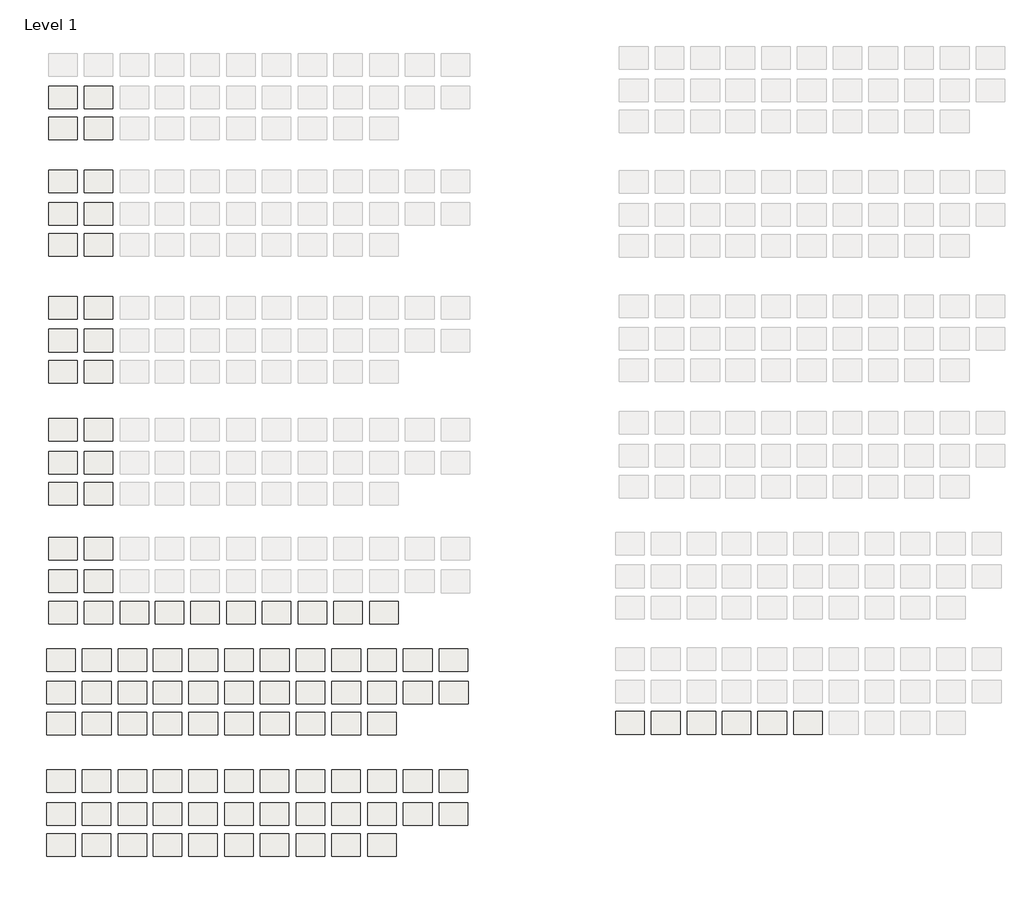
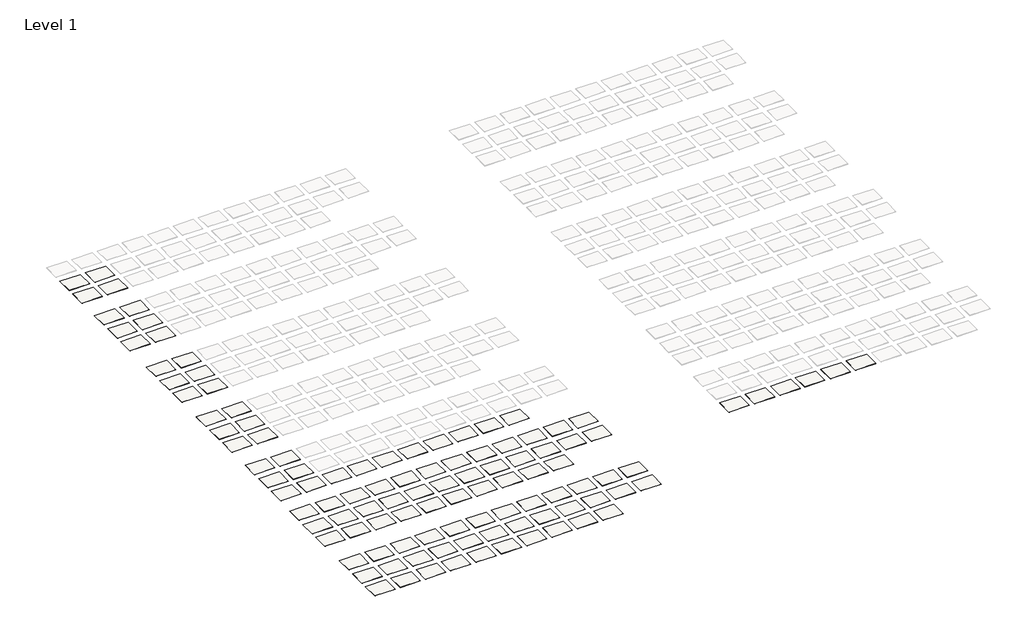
# One storey, part 1 of 4: 110 coverings.
"""IFC4 building model written with IfcOpenShell, lengths in millimetres."""

from ifc_helpers import new_model, si_unit, frame, origin, place, context, project, spatial, polyline, outline, extrude, element, save

model = new_model("IFC4")

# Units and contexts
model_context = context("Model", 3, world=origin())
ifc_project = project(units=[si_unit("LENGTHUNIT", "METRE", prefix="MILLI")], contexts=[model_context])

# Site, building, storey
site = spatial("IfcSite", under=ifc_project)
building = spatial("IfcBuilding", under=site)
storey = spatial("IfcBuildingStorey", under=building, Name="Level 1", Elevation=0.0)

# Coverings
placement = place(None, origin())
element("IfcCovering", 1, ObjectType="Rockfon Color-all A24 1800 x 600 mm Anthracite", at=placement, inside=storey, context=model_context, shape_type="SweptSolid", body=[
    extrude(outline(polyline([(-5278.7545528, -87280.8676046), (-5278.7545528, -90180.8676046), (-8968.7545528, -90180.8676046), (-8968.7545528, -87280.8676046), (-5278.7545528, -87280.8676046)])), frame((0.0, 0.0, 1.0), z_axis=(0.0, 0.0, 1.0), x_axis=(1.0, 0.0, 0.0)), (0.0, 0.0, 1.0), 20.0),
])
element("IfcCovering", 2, ObjectType="Rockfon Color-all A24 1800 x 600 mm Seaweed", at=placement, inside=storey, context=model_context, shape_type="SweptSolid", body=[
    extrude(outline(polyline([(-5278.7545528, -91480.8676046), (-5278.7545528, -94380.8676046), (-8968.7545528, -94380.8676046), (-8968.7545528, -91480.8676046), (-5278.7545528, -91480.8676046)])), frame((0.0, 0.0, 1.0), z_axis=(0.0, 0.0, 1.0), x_axis=(1.0, 0.0, 0.0)), (0.0, 0.0, 1.0), 20.0),
])
element("IfcCovering", 3, ObjectType="Rockfon Color-all A24 1800 x 600 mm Azure", at=placement, inside=storey, context=model_context, shape_type="SweptSolid", body=[
    extrude(outline(polyline([(-5278.7545528, -95480.8676046), (-5278.7545528, -98380.8676046), (-8968.7545528, -98380.8676046), (-8968.7545528, -95480.8676046), (-5278.7545528, -95480.8676046)])), frame((0.0, 0.0, 1.0), z_axis=(0.0, 0.0, 1.0), x_axis=(1.0, 0.0, 0.0)), (0.0, 0.0, 1.0), 20.0),
])
element("IfcCovering", 4, ObjectType="Rockfon Color-all A24 1800 x 600 mm Mustard", at=placement, inside=storey, context=model_context, shape_type="SweptSolid", body=[
    extrude(outline(polyline([(-678.7545528, -87280.8676046), (-678.7545528, -90180.8676046), (-4368.7545528, -90180.8676046), (-4368.7545528, -87280.8676046), (-678.7545528, -87280.8676046)])), frame((0.0, 0.0, 1.0), z_axis=(0.0, 0.0, 1.0), x_axis=(1.0, 0.0, 0.0)), (0.0, 0.0, 1.0), 20.0),
])
element("IfcCovering", 5, ObjectType="Rockfon Color-all A24 1800 x 600 mm Eucalyptus", at=placement, inside=storey, context=model_context, shape_type="SweptSolid", body=[
    extrude(outline(polyline([(-678.7545528, -91480.8676046), (-678.7545528, -94380.8676046), (-4368.7545528, -94380.8676046), (-4368.7545528, -91480.8676046), (-678.7545528, -91480.8676046)])), frame((0.0, 0.0, 1.0), z_axis=(0.0, 0.0, 1.0), x_axis=(1.0, 0.0, 0.0)), (0.0, 0.0, 1.0), 20.0),
])
element("IfcCovering", 6, ObjectType="Rockfon Color-all A24 1800 x 600 mm Plaster", at=placement, inside=storey, context=model_context, shape_type="SweptSolid", body=[
    extrude(outline(polyline([(-678.7545528, -95480.8676046), (-678.7545528, -98380.8676046), (-4368.7545528, -98380.8676046), (-4368.7545528, -95480.8676046), (-678.7545528, -95480.8676046)])), frame((0.0, 0.0, 1.0), z_axis=(0.0, 0.0, 1.0), x_axis=(1.0, 0.0, 0.0)), (0.0, 0.0, 1.0), 20.0),
])
element("IfcCovering", 7, ObjectType="Rockfon Color-all A24 1800 x 600 mm Sand", at=placement, inside=storey, context=model_context, shape_type="SweptSolid", body=[
    extrude(outline(polyline([(3921.2454472, -87280.8676046), (3921.2454472, -90180.8676046), (231.2454472, -90180.8676046), (231.2454472, -87280.8676046), (3921.2454472, -87280.8676046)])), frame((0.0, 0.0, 1.0), z_axis=(0.0, 0.0, 1.0), x_axis=(1.0, 0.0, 0.0)), (0.0, 0.0, 1.0), 20.0),
])
element("IfcCovering", 8, ObjectType="Rockfon Color-all A24 1800 x 600 mm Fresh", at=placement, inside=storey, context=model_context, shape_type="SweptSolid", body=[
    extrude(outline(polyline([(3921.2454472, -91480.8676046), (3921.2454472, -94380.8676046), (231.2454472, -94380.8676046), (231.2454472, -91480.8676046), (3921.2454472, -91480.8676046)])), frame((0.0, 0.0, 1.0), z_axis=(0.0, 0.0, 1.0), x_axis=(1.0, 0.0, 0.0)), (0.0, 0.0, 1.0), 20.0),
])
element("IfcCovering", 9, ObjectType="Rockfon Color-all A24 1800 x 600 mm Scarlet", at=placement, inside=storey, context=model_context, shape_type="SweptSolid", body=[
    extrude(outline(polyline([(3921.2454472, -95480.8676046), (3921.2454472, -98380.8676046), (231.2454472, -98380.8676046), (231.2454472, -95480.8676046), (3921.2454472, -95480.8676046)])), frame((0.0, 0.0, 1.0), z_axis=(0.0, 0.0, 1.0), x_axis=(1.0, 0.0, 0.0)), (0.0, 0.0, 1.0), 20.0),
])
element("IfcCovering", 10, ObjectType="Rockfon Color-all A24 1800 x 600 mm Chalk", at=placement, inside=storey, context=model_context, shape_type="SweptSolid", body=[
    extrude(outline(polyline([(8421.2454472, -87280.8676046), (8421.2454472, -90180.8676046), (4731.2454472, -90180.8676046), (4731.2454472, -87280.8676046), (8421.2454472, -87280.8676046)])), frame((0.0, 0.0, 1.0), z_axis=(0.0, 0.0, 1.0), x_axis=(1.0, 0.0, 0.0)), (0.0, 0.0, 1.0), 20.0),
])
element("IfcCovering", 11, ObjectType="Rockfon Color-all A24 1800 x 600 mm Sage", at=placement, inside=storey, context=model_context, shape_type="SweptSolid", body=[
    extrude(outline(polyline([(8421.2454472, -91480.8676046), (8421.2454472, -94380.8676046), (4731.2454472, -94380.8676046), (4731.2454472, -91480.8676046), (8421.2454472, -91480.8676046)])), frame((0.0, 0.0, 1.0), z_axis=(0.0, 0.0, 1.0), x_axis=(1.0, 0.0, 0.0)), (0.0, 0.0, 1.0), 20.0),
])
element("IfcCovering", 12, ObjectType="Rockfon Color-all A24 1800 x 600 mm Stone", at=placement, inside=storey, context=model_context, shape_type="SweptSolid", body=[
    extrude(outline(polyline([(8421.2454472, -95480.8676046), (8421.2454472, -98380.8676046), (4731.2454472, -98380.8676046), (4731.2454472, -95480.8676046), (8421.2454472, -95480.8676046)])), frame((0.0, 0.0, 1.0), z_axis=(0.0, 0.0, 1.0), x_axis=(1.0, 0.0, 0.0)), (0.0, 0.0, 1.0), 20.0),
])
element("IfcCovering", 13, ObjectType="Rockfon Color-all A24 1800 x 600 mm Charcoal", at=placement, inside=storey, context=model_context, shape_type="SweptSolid", body=[
    extrude(outline(polyline([(13021.2454472, -87280.8676046), (13021.2454472, -90180.8676046), (9331.2454472, -90180.8676046), (9331.2454472, -87280.8676046), (13021.2454472, -87280.8676046)])), frame((0.0, 0.0, 1.0), z_axis=(0.0, 0.0, 1.0), x_axis=(1.0, 0.0, 0.0)), (0.0, 0.0, 1.0), 20.0),
])
element("IfcCovering", 14, ObjectType="Rockfon Color-all A24 1800 x 600 mm Mint", at=placement, inside=storey, context=model_context, shape_type="SweptSolid", body=[
    extrude(outline(polyline([(13021.2454472, -91480.8676046), (13021.2454472, -94380.8676046), (9331.2454472, -94380.8676046), (9331.2454472, -91480.8676046), (13021.2454472, -91480.8676046)])), frame((0.0, 0.0, 1.0), z_axis=(0.0, 0.0, 1.0), x_axis=(1.0, 0.0, 0.0)), (0.0, 0.0, 1.0), 20.0),
])
element("IfcCovering", 15, ObjectType="Rockfon Color-all A24 1800 x 600 mm Stucco", at=placement, inside=storey, context=model_context, shape_type="SweptSolid", body=[
    extrude(outline(polyline([(13021.2454472, -95480.8676046), (13021.2454472, -98380.8676046), (9331.2454472, -98380.8676046), (9331.2454472, -95480.8676046), (13021.2454472, -95480.8676046)])), frame((0.0, 0.0, 1.0), z_axis=(0.0, 0.0, 1.0), x_axis=(1.0, 0.0, 0.0)), (0.0, 0.0, 1.0), 20.0),
])
element("IfcCovering", 16, ObjectType="Rockfon Color-all A24 1800 x 600 mm Coral", at=placement, inside=storey, context=model_context, shape_type="SweptSolid", body=[
    extrude(outline(polyline([(17621.2454472, -87280.8676046), (17621.2454472, -90180.8676046), (13931.2454472, -90180.8676046), (13931.2454472, -87280.8676046), (17621.2454472, -87280.8676046)])), frame((0.0, 0.0, 1.0), z_axis=(0.0, 0.0, 1.0), x_axis=(1.0, 0.0, 0.0)), (0.0, 0.0, 1.0), 20.0),
])
element("IfcCovering", 17, ObjectType="Rockfon Color-all A24 1800 x 600 mm Gravel", at=placement, inside=storey, context=model_context, shape_type="SweptSolid", body=[
    extrude(outline(polyline([(17621.2454472, -91480.8676046), (17621.2454472, -94380.8676046), (13931.2454472, -94380.8676046), (13931.2454472, -91480.8676046), (17621.2454472, -91480.8676046)])), frame((0.0, 0.0, 1.0), z_axis=(0.0, 0.0, 1.0), x_axis=(1.0, 0.0, 0.0)), (0.0, 0.0, 1.0), 20.0),
])
element("IfcCovering", 18, ObjectType="Rockfon Color-all A24 1800 x 600 mm Sandalwood", at=placement, inside=storey, context=model_context, shape_type="SweptSolid", body=[
    extrude(outline(polyline([(17621.2454472, -95480.8676046), (17621.2454472, -98380.8676046), (13931.2454472, -98380.8676046), (13931.2454472, -95480.8676046), (17621.2454472, -95480.8676046)])), frame((0.0, 0.0, 1.0), z_axis=(0.0, 0.0, 1.0), x_axis=(1.0, 0.0, 0.0)), (0.0, 0.0, 1.0), 20.0),
])
element("IfcCovering", 19, ObjectType="Rockfon Color-all A24 1800 x 600 mm Clay", at=placement, inside=storey, context=model_context, shape_type="SweptSolid", body=[
    extrude(outline(polyline([(22221.2454472, -87280.8676046), (22221.2454472, -90180.8676046), (18531.2454472, -90180.8676046), (18531.2454472, -87280.8676046), (22221.2454472, -87280.8676046)])), frame((0.0, 0.0, 1.0), z_axis=(0.0, 0.0, 1.0), x_axis=(1.0, 0.0, 0.0)), (0.0, 0.0, 1.0), 20.0),
])
element("IfcCovering", 20, ObjectType="Rockfon Color-all A24 1800 x 600 mm Hemp", at=placement, inside=storey, context=model_context, shape_type="SweptSolid", body=[
    extrude(outline(polyline([(22221.2454472, -91480.8676046), (22221.2454472, -94380.8676046), (18531.2454472, -94380.8676046), (18531.2454472, -91480.8676046), (22221.2454472, -91480.8676046)])), frame((0.0, 0.0, 1.0), z_axis=(0.0, 0.0, 1.0), x_axis=(1.0, 0.0, 0.0)), (0.0, 0.0, 1.0), 20.0),
])
element("IfcCovering", 21, ObjectType="Rockfon Color-all A24 1800 x 600 mm Ebony", at=placement, inside=storey, context=model_context, shape_type="SweptSolid", body=[
    extrude(outline(polyline([(22221.2454472, -95480.8676046), (22221.2454472, -98380.8676046), (18531.2454472, -98380.8676046), (18531.2454472, -95480.8676046), (22221.2454472, -95480.8676046)])), frame((0.0, 0.0, 1.0), z_axis=(0.0, 0.0, 1.0), x_axis=(1.0, 0.0, 0.0)), (0.0, 0.0, 1.0), 20.0),
])
element("IfcCovering", 22, ObjectType="Rockfon Color-all A24 1800 x 600 mm Concrete", at=placement, inside=storey, context=model_context, shape_type="SweptSolid", body=[
    extrude(outline(polyline([(26821.2454472, -87280.8676046), (26821.2454472, -90180.8676046), (23131.2454472, -90180.8676046), (23131.2454472, -87280.8676046), (26821.2454472, -87280.8676046)])), frame((0.0, 0.0, 1.0), z_axis=(0.0, 0.0, 1.0), x_axis=(1.0, 0.0, 0.0)), (0.0, 0.0, 1.0), 20.0),
])
element("IfcCovering", 23, ObjectType="Rockfon Color-all A24 1800 x 600 mm Space", at=placement, inside=storey, context=model_context, shape_type="SweptSolid", body=[
    extrude(outline(polyline([(26821.2454472, -91480.8676046), (26821.2454472, -94380.8676046), (23131.2454472, -94380.8676046), (23131.2454472, -91480.8676046), (26821.2454472, -91480.8676046)])), frame((0.0, 0.0, 1.0), z_axis=(0.0, 0.0, 1.0), x_axis=(1.0, 0.0, 0.0)), (0.0, 0.0, 1.0), 20.0),
])
element("IfcCovering", 24, ObjectType="Rockfon Color-all A24 1800 x 600 mm Iron", at=placement, inside=storey, context=model_context, shape_type="SweptSolid", body=[
    extrude(outline(polyline([(26821.2454472, -95480.8676046), (26821.2454472, -98380.8676046), (23131.2454472, -98380.8676046), (23131.2454472, -95480.8676046), (26821.2454472, -95480.8676046)])), frame((0.0, 0.0, 1.0), z_axis=(0.0, 0.0, 1.0), x_axis=(1.0, 0.0, 0.0)), (0.0, 0.0, 1.0), 20.0),
])
element("IfcCovering", 25, ObjectType="Rockfon Color-all A24 1800 x 600 mm Seashell", at=placement, inside=storey, context=model_context, shape_type="SweptSolid", body=[
    extrude(outline(polyline([(31421.2454472, -87280.8676046), (31421.2454472, -90180.8676046), (27731.2454472, -90180.8676046), (27731.2454472, -87280.8676046), (31421.2454472, -87280.8676046)])), frame((0.0, 0.0, 1.0), z_axis=(0.0, 0.0, 1.0), x_axis=(1.0, 0.0, 0.0)), (0.0, 0.0, 1.0), 20.0),
])
element("IfcCovering", 26, ObjectType="Rockfon Color-all A24 1800 x 600 mm Storm", at=placement, inside=storey, context=model_context, shape_type="SweptSolid", body=[
    extrude(outline(polyline([(31421.2454472, -91480.8676046), (31421.2454472, -94380.8676046), (27731.2454472, -94380.8676046), (27731.2454472, -91480.8676046), (31421.2454472, -91480.8676046)])), frame((0.0, 0.0, 1.0), z_axis=(0.0, 0.0, 1.0), x_axis=(1.0, 0.0, 0.0)), (0.0, 0.0, 1.0), 20.0),
])
element("IfcCovering", 27, ObjectType="Rockfon Color-all A24 1800 x 600 mm Moon", at=placement, inside=storey, context=model_context, shape_type="SweptSolid", body=[
    extrude(outline(polyline([(31421.2454472, -95480.8676046), (31421.2454472, -98380.8676046), (27731.2454472, -98380.8676046), (27731.2454472, -95480.8676046), (31421.2454472, -95480.8676046)])), frame((0.0, 0.0, 1.0), z_axis=(0.0, 0.0, 1.0), x_axis=(1.0, 0.0, 0.0)), (0.0, 0.0, 1.0), 20.0),
])
element("IfcCovering", 28, ObjectType="Rockfon Color-all A24 1800 x 600 mm Cork", at=placement, inside=storey, context=model_context, shape_type="SweptSolid", body=[
    extrude(outline(polyline([(36021.2454472, -87280.8676046), (36021.2454472, -90180.8676046), (32331.2454472, -90180.8676046), (32331.2454472, -87280.8676046), (36021.2454472, -87280.8676046)])), frame((0.0, 0.0, 1.0), z_axis=(0.0, 0.0, 1.0), x_axis=(1.0, 0.0, 0.0)), (0.0, 0.0, 1.0), 20.0),
])
element("IfcCovering", 29, ObjectType="Rockfon Color-all A24 1800 x 600 mm Linen", at=placement, inside=storey, context=model_context, shape_type="SweptSolid", body=[
    extrude(outline(polyline([(36021.2454472, -91480.8676046), (36021.2454472, -94380.8676046), (32331.2454472, -94380.8676046), (32331.2454472, -91480.8676046), (36021.2454472, -91480.8676046)])), frame((0.0, 0.0, 1.0), z_axis=(0.0, 0.0, 1.0), x_axis=(1.0, 0.0, 0.0)), (0.0, 0.0, 1.0), 20.0),
])
element("IfcCovering", 30, ObjectType="Rockfon Color-all A24 1800 x 600 mm Zinc", at=placement, inside=storey, context=model_context, shape_type="SweptSolid", body=[
    extrude(outline(polyline([(36021.2454472, -95480.8676046), (36021.2454472, -98380.8676046), (32331.2454472, -98380.8676046), (32331.2454472, -95480.8676046), (36021.2454472, -95480.8676046)])), frame((0.0, 0.0, 1.0), z_axis=(0.0, 0.0, 1.0), x_axis=(1.0, 0.0, 0.0)), (0.0, 0.0, 1.0), 20.0),
])
element("IfcCovering", 31, ObjectType="Rockfon Color-all A24 1800 x 600 mm Petal", at=placement, inside=storey, context=model_context, shape_type="SweptSolid", body=[
    extrude(outline(polyline([(40621.2454472, -87280.8676046), (40621.2454472, -90180.8676046), (36931.2454472, -90180.8676046), (36931.2454472, -87280.8676046), (40621.2454472, -87280.8676046)])), frame((0.0, 0.0, 1.0), z_axis=(0.0, 0.0, 1.0), x_axis=(1.0, 0.0, 0.0)), (0.0, 0.0, 1.0), 20.0),
])
element("IfcCovering", 32, ObjectType="Rockfon Color-all A24 1800 x 600 mm Mastic", at=placement, inside=storey, context=model_context, shape_type="SweptSolid", body=[
    extrude(outline(polyline([(40621.2454472, -91480.8676046), (40621.2454472, -94380.8676046), (36931.2454472, -94380.8676046), (36931.2454472, -91480.8676046), (40621.2454472, -91480.8676046)])), frame((0.0, 0.0, 1.0), z_axis=(0.0, 0.0, 1.0), x_axis=(1.0, 0.0, 0.0)), (0.0, 0.0, 1.0), 20.0),
])
element("IfcCovering", 33, ObjectType="Rockfon Color-all A24 1800 x 600 mm Mercury", at=placement, inside=storey, context=model_context, shape_type="SweptSolid", body=[
    extrude(outline(polyline([(45240.3167047, -91485.9951657), (45240.3167047, -94385.9951657), (41550.3167047, -94385.9951657), (41550.3167047, -91485.9951657), (45240.3167047, -91485.9951657)])), frame((0.0, 0.0, 1.0), z_axis=(0.0, 0.0, 1.0), x_axis=(1.0, 0.0, 0.0)), (0.0, 0.0, 1.0), 20.0),
])
element("IfcCovering", 34, ObjectType="Rockfon Color-all A24 1800 x 600 mm Earth", at=placement, inside=storey, context=model_context, shape_type="SweptSolid", body=[
    extrude(outline(polyline([(45221.2454472, -87280.8676046), (45221.2454472, -90180.8676046), (41531.2454472, -90180.8676046), (41531.2454472, -87280.8676046), (45221.2454472, -87280.8676046)])), frame((0.0, 0.0, 1.0), z_axis=(0.0, 0.0, 1.0), x_axis=(1.0, 0.0, 0.0)), (0.0, 0.0, 1.0), 20.0),
])
element("IfcCovering", 35, ObjectType="Rockfon Color-all X 600 x 600 mm Seaweed", at=placement, inside=storey, context=model_context, shape_type="SweptSolid", body=[
    extrude(outline(polyline([(-5022.2855434, 748.2467138), (-5022.2855434, -2151.7532862), (-8712.2855434, -2151.7532862), (-8712.2855434, 748.2467138), (-5022.2855434, 748.2467138)])), frame((0.0, 0.0, 1.0), z_axis=(0.0, 0.0, 1.0), x_axis=(1.0, 0.0, 0.0)), (0.0, 0.0, 1.0), 22.0),
])
element("IfcCovering", 36, ObjectType="Rockfon Color-all X 600 x 600 mm Azure", at=placement, inside=storey, context=model_context, shape_type="SweptSolid", body=[
    extrude(outline(polyline([(-5022.2855434, -3251.7532862), (-5022.2855434, -6151.7532862), (-8712.2855434, -6151.7532862), (-8712.2855434, -3251.7532862), (-5022.2855434, -3251.7532862)])), frame((0.0, 0.0, 1.0), z_axis=(0.0, 0.0, 1.0), x_axis=(1.0, 0.0, 0.0)), (0.0, 0.0, 1.0), 22.0),
])
element("IfcCovering", 37, ObjectType="Rockfon Color-all X 600 x 600 mm Eucalyptus", at=placement, inside=storey, context=model_context, shape_type="SweptSolid", body=[
    extrude(outline(polyline([(-422.2855434, 748.2467138), (-422.2855434, -2151.7532862), (-4112.2855434, -2151.7532862), (-4112.2855434, 748.2467138), (-422.2855434, 748.2467138)])), frame((0.0, 0.0, 1.0), z_axis=(0.0, 0.0, 1.0), x_axis=(1.0, 0.0, 0.0)), (0.0, 0.0, 1.0), 22.0),
])
element("IfcCovering", 38, ObjectType="Rockfon Color-all X 600 x 600 mm Plaster", at=placement, inside=storey, context=model_context, shape_type="SweptSolid", body=[
    extrude(outline(polyline([(-422.2855434, -3251.7532862), (-422.2855434, -6151.7532862), (-4112.2855434, -6151.7532862), (-4112.2855434, -3251.7532862), (-422.2855434, -3251.7532862)])), frame((0.0, 0.0, 1.0), z_axis=(0.0, 0.0, 1.0), x_axis=(1.0, 0.0, 0.0)), (0.0, 0.0, 1.0), 22.0),
])
element("IfcCovering", 39, ObjectType="Rockfon Color-all A15 600 x 600 mm Anthracite", at=placement, inside=storey, context=model_context, shape_type="SweptSolid", body=[
    extrude(outline(polyline([(-5022.2855434, -10051.7532862), (-5022.2855434, -12951.7532862), (-8712.2855434, -12951.7532862), (-8712.2855434, -10051.7532862), (-5022.2855434, -10051.7532862)])), frame((0.0, 0.0, 1.0), z_axis=(0.0, 0.0, 1.0), x_axis=(1.0, 0.0, 0.0)), (0.0, 0.0, 1.0), 15.0),
])
element("IfcCovering", 40, ObjectType="Rockfon Color-all A15 600 x 600 mm Seaweed", at=placement, inside=storey, context=model_context, shape_type="SweptSolid", body=[
    extrude(outline(polyline([(-5022.2855434, -14251.7532862), (-5022.2855434, -17151.7532862), (-8712.2855434, -17151.7532862), (-8712.2855434, -14251.7532862), (-5022.2855434, -14251.7532862)])), frame((0.0, 0.0, 1.0), z_axis=(0.0, 0.0, 1.0), x_axis=(1.0, 0.0, 0.0)), (0.0, 0.0, 1.0), 15.0),
])
element("IfcCovering", 41, ObjectType="Rockfon Color-all A15 600 x 600 mm Misty", at=placement, inside=storey, context=model_context, shape_type="SweptSolid", body=[
    extrude(outline(polyline([(-5022.2855434, -18251.7532862), (-5022.2855434, -21151.7532862), (-8712.2855434, -21151.7532862), (-8712.2855434, -18251.7532862), (-5022.2855434, -18251.7532862)])), frame((0.0, 0.0, 1.0), z_axis=(0.0, 0.0, 1.0), x_axis=(1.0, 0.0, 0.0)), (0.0, 0.0, 1.0), 15.0),
])
element("IfcCovering", 42, ObjectType="Rockfon Color-all A15 600 x 600 mm Mustard", at=placement, inside=storey, context=model_context, shape_type="SweptSolid", body=[
    extrude(outline(polyline([(-422.2855434, -10051.7532862), (-422.2855434, -12951.7532862), (-4112.2855434, -12951.7532862), (-4112.2855434, -10051.7532862), (-422.2855434, -10051.7532862)])), frame((0.0, 0.0, 1.0), z_axis=(0.0, 0.0, 1.0), x_axis=(1.0, 0.0, 0.0)), (0.0, 0.0, 1.0), 15.0),
])
element("IfcCovering", 43, ObjectType="Rockfon Color-all A15 600 x 600 mm Eucalyptus", at=placement, inside=storey, context=model_context, shape_type="SweptSolid", body=[
    extrude(outline(polyline([(-422.2855434, -14251.7532862), (-422.2855434, -17151.7532862), (-4112.2855434, -17151.7532862), (-4112.2855434, -14251.7532862), (-422.2855434, -14251.7532862)])), frame((0.0, 0.0, 1.0), z_axis=(0.0, 0.0, 1.0), x_axis=(1.0, 0.0, 0.0)), (0.0, 0.0, 1.0), 15.0),
])
element("IfcCovering", 44, ObjectType="Rockfon Color-all A15 600 x 600 mm Plaster", at=placement, inside=storey, context=model_context, shape_type="SweptSolid", body=[
    extrude(outline(polyline([(-422.2855434, -18251.7532862), (-422.2855434, -21151.7532862), (-4112.2855434, -21151.7532862), (-4112.2855434, -18251.7532862), (-422.2855434, -18251.7532862)])), frame((0.0, 0.0, 1.0), z_axis=(0.0, 0.0, 1.0), x_axis=(1.0, 0.0, 0.0)), (0.0, 0.0, 1.0), 15.0),
])
element("IfcCovering", 45, ObjectType="Rockfon Color-all A24 600 x 600 mm Anthracite", at=placement, inside=storey, context=model_context, shape_type="SweptSolid", body=[
    extrude(outline(polyline([(-5022.2855434, -42051.7532862), (-5022.2855434, -44951.7532862), (-8712.2855434, -44951.7532862), (-8712.2855434, -42051.7532862), (-5022.2855434, -42051.7532862)])), frame((0.0, 0.0, 1.0), z_axis=(0.0, 0.0, 1.0), x_axis=(1.0, 0.0, 0.0)), (0.0, 0.0, 1.0), 15.0),
])
element("IfcCovering", 46, ObjectType="Rockfon Color-all A24 600 x 600 mm Seaweed", at=placement, inside=storey, context=model_context, shape_type="SweptSolid", body=[
    extrude(outline(polyline([(-5022.2855434, -46251.7532862), (-5022.2855434, -49151.7532862), (-8712.2855434, -49151.7532862), (-8712.2855434, -46251.7532862), (-5022.2855434, -46251.7532862)])), frame((0.0, 0.0, 1.0), z_axis=(0.0, 0.0, 1.0), x_axis=(1.0, 0.0, 0.0)), (0.0, 0.0, 1.0), 15.0),
])
element("IfcCovering", 47, ObjectType="Rockfon Color-all A24 600 x 600 mm Azure", at=placement, inside=storey, context=model_context, shape_type="SweptSolid", body=[
    extrude(outline(polyline([(-5022.2855434, -50251.7532862), (-5022.2855434, -53151.7532862), (-8712.2855434, -53151.7532862), (-8712.2855434, -50251.7532862), (-5022.2855434, -50251.7532862)])), frame((0.0, 0.0, 1.0), z_axis=(0.0, 0.0, 1.0), x_axis=(1.0, 0.0, 0.0)), (0.0, 0.0, 1.0), 15.0),
])
element("IfcCovering", 48, ObjectType="Rockfon Color-all A24 600 x 600 mm Mustard", at=placement, inside=storey, context=model_context, shape_type="SweptSolid", body=[
    extrude(outline(polyline([(-422.2855434, -42051.7532862), (-422.2855434, -44951.7532862), (-4112.2855434, -44951.7532862), (-4112.2855434, -42051.7532862), (-422.2855434, -42051.7532862)])), frame((0.0, 0.0, 1.0), z_axis=(0.0, 0.0, 1.0), x_axis=(1.0, 0.0, 0.0)), (0.0, 0.0, 1.0), 15.0),
])
element("IfcCovering", 49, ObjectType="Rockfon Color-all A24 600 x 600 mm Eucalyptus", at=placement, inside=storey, context=model_context, shape_type="SweptSolid", body=[
    extrude(outline(polyline([(-422.2855434, -46251.7532862), (-422.2855434, -49151.7532862), (-4112.2855434, -49151.7532862), (-4112.2855434, -46251.7532862), (-422.2855434, -46251.7532862)])), frame((0.0, 0.0, 1.0), z_axis=(0.0, 0.0, 1.0), x_axis=(1.0, 0.0, 0.0)), (0.0, 0.0, 1.0), 15.0),
])
element("IfcCovering", 50, ObjectType="Rockfon Color-all A24 600 x 600 mm Plaster", at=placement, inside=storey, context=model_context, shape_type="SweptSolid", body=[
    extrude(outline(polyline([(-422.2855434, -50251.7532862), (-422.2855434, -53151.7532862), (-4112.2855434, -53151.7532862), (-4112.2855434, -50251.7532862), (-422.2855434, -50251.7532862)])), frame((0.0, 0.0, 1.0), z_axis=(0.0, 0.0, 1.0), x_axis=(1.0, 0.0, 0.0)), (0.0, 0.0, 1.0), 15.0),
])
element("IfcCovering", 51, ObjectType="Rockfon Color-all A15 1200 x 600 mm Anthracite", at=placement, inside=storey, context=model_context, shape_type="SweptSolid", body=[
    extrude(outline(polyline([(-5022.2855434, -26351.7532862), (-5022.2855434, -29251.7532862), (-8712.2855434, -29251.7532862), (-8712.2855434, -26351.7532862), (-5022.2855434, -26351.7532862)])), frame((0.0, 0.0, 1.0), z_axis=(0.0, 0.0, 1.0), x_axis=(1.0, 0.0, 0.0)), (0.0, 0.0, 1.0), 15.0),
])
element("IfcCovering", 52, ObjectType="Rockfon Color-all A15 1200 x 600 mm Seaweed", at=placement, inside=storey, context=model_context, shape_type="SweptSolid", body=[
    extrude(outline(polyline([(-5022.2855434, -30551.7532862), (-5022.2855434, -33451.7532862), (-8712.2855434, -33451.7532862), (-8712.2855434, -30551.7532862), (-5022.2855434, -30551.7532862)])), frame((0.0, 0.0, 1.0), z_axis=(0.0, 0.0, 1.0), x_axis=(1.0, 0.0, 0.0)), (0.0, 0.0, 1.0), 15.0),
])
element("IfcCovering", 53, ObjectType="Rockfon Color-all A15 1200 x 600 mm Azure", at=placement, inside=storey, context=model_context, shape_type="SweptSolid", body=[
    extrude(outline(polyline([(-5022.2855434, -34551.7532862), (-5022.2855434, -37451.7532862), (-8712.2855434, -37451.7532862), (-8712.2855434, -34551.7532862), (-5022.2855434, -34551.7532862)])), frame((0.0, 0.0, 1.0), z_axis=(0.0, 0.0, 1.0), x_axis=(1.0, 0.0, 0.0)), (0.0, 0.0, 1.0), 15.0),
])
element("IfcCovering", 54, ObjectType="Rockfon Color-all A15 1200 x 600 mm Mustard", at=placement, inside=storey, context=model_context, shape_type="SweptSolid", body=[
    extrude(outline(polyline([(-422.2855434, -26351.7532862), (-422.2855434, -29251.7532862), (-4112.2855434, -29251.7532862), (-4112.2855434, -26351.7532862), (-422.2855434, -26351.7532862)])), frame((0.0, 0.0, 1.0), z_axis=(0.0, 0.0, 1.0), x_axis=(1.0, 0.0, 0.0)), (0.0, 0.0, 1.0), 15.0),
])
element("IfcCovering", 55, ObjectType="Rockfon Color-all A15 1200 x 600 mm Eucalyptus", at=placement, inside=storey, context=model_context, shape_type="SweptSolid", body=[
    extrude(outline(polyline([(-422.2855434, -30551.7532862), (-422.2855434, -33451.7532862), (-4112.2855434, -33451.7532862), (-4112.2855434, -30551.7532862), (-422.2855434, -30551.7532862)])), frame((0.0, 0.0, 1.0), z_axis=(0.0, 0.0, 1.0), x_axis=(1.0, 0.0, 0.0)), (0.0, 0.0, 1.0), 15.0),
])
element("IfcCovering", 56, ObjectType="Rockfon Color-all A15 1200 x 600 mm Plaster", at=placement, inside=storey, context=model_context, shape_type="SweptSolid", body=[
    extrude(outline(polyline([(-422.2855434, -34551.7532862), (-422.2855434, -37451.7532862), (-4112.2855434, -37451.7532862), (-4112.2855434, -34551.7532862), (-422.2855434, -34551.7532862)])), frame((0.0, 0.0, 1.0), z_axis=(0.0, 0.0, 1.0), x_axis=(1.0, 0.0, 0.0)), (0.0, 0.0, 1.0), 15.0),
])
element("IfcCovering", 57, ObjectType="Rockfon Color-all A24 1200 x 600 mm Anthracite", at=placement, inside=storey, context=model_context, shape_type="SweptSolid", body=[
    extrude(outline(polyline([(-5022.2855434, -57351.7532862), (-5022.2855434, -60251.7532862), (-8712.2855434, -60251.7532862), (-8712.2855434, -57351.7532862), (-5022.2855434, -57351.7532862)])), frame((0.0, 0.0, 1.0), z_axis=(0.0, 0.0, 1.0), x_axis=(1.0, 0.0, 0.0)), (0.0, 0.0, 1.0), 15.0),
])
element("IfcCovering", 58, ObjectType="Rockfon Color-all A24 1200 x 600 mm Seaweed", at=placement, inside=storey, context=model_context, shape_type="SweptSolid", body=[
    extrude(outline(polyline([(-5022.2855434, -61551.7532862), (-5022.2855434, -64451.7532862), (-8712.2855434, -64451.7532862), (-8712.2855434, -61551.7532862), (-5022.2855434, -61551.7532862)])), frame((0.0, 0.0, 1.0), z_axis=(0.0, 0.0, 1.0), x_axis=(1.0, 0.0, 0.0)), (0.0, 0.0, 1.0), 15.0),
])
element("IfcCovering", 59, ObjectType="Rockfon Color-all A24 1200 x 600 mm Azure", at=placement, inside=storey, context=model_context, shape_type="SweptSolid", body=[
    extrude(outline(polyline([(-5022.2855434, -65551.7532862), (-5022.2855434, -68451.7532862), (-8712.2855434, -68451.7532862), (-8712.2855434, -65551.7532862), (-5022.2855434, -65551.7532862)])), frame((0.0, 0.0, 1.0), z_axis=(0.0, 0.0, 1.0), x_axis=(1.0, 0.0, 0.0)), (0.0, 0.0, 1.0), 15.0),
])
element("IfcCovering", 60, ObjectType="Rockfon Color-all A24 1200 x 600 mm Mustard", at=placement, inside=storey, context=model_context, shape_type="SweptSolid", body=[
    extrude(outline(polyline([(-422.2855434, -57351.7532862), (-422.2855434, -60251.7532862), (-4112.2855434, -60251.7532862), (-4112.2855434, -57351.7532862), (-422.2855434, -57351.7532862)])), frame((0.0, 0.0, 1.0), z_axis=(0.0, 0.0, 1.0), x_axis=(1.0, 0.0, 0.0)), (0.0, 0.0, 1.0), 15.0),
])
element("IfcCovering", 61, ObjectType="Rockfon Color-all A24 1200 x 600 mm Eucalyptus", at=placement, inside=storey, context=model_context, shape_type="SweptSolid", body=[
    extrude(outline(polyline([(-422.2855434, -61551.7532862), (-422.2855434, -64451.7532862), (-4112.2855434, -64451.7532862), (-4112.2855434, -61551.7532862), (-422.2855434, -61551.7532862)])), frame((0.0, 0.0, 1.0), z_axis=(0.0, 0.0, 1.0), x_axis=(1.0, 0.0, 0.0)), (0.0, 0.0, 1.0), 15.0),
])
element("IfcCovering", 62, ObjectType="Rockfon Color-all A24 1200 x 600 mm Plaster", at=placement, inside=storey, context=model_context, shape_type="SweptSolid", body=[
    extrude(outline(polyline([(-422.2855434, -65551.7532862), (-422.2855434, -68451.7532862), (-4112.2855434, -68451.7532862), (-4112.2855434, -65551.7532862), (-422.2855434, -65551.7532862)])), frame((0.0, 0.0, 1.0), z_axis=(0.0, 0.0, 1.0), x_axis=(1.0, 0.0, 0.0)), (0.0, 0.0, 1.0), 15.0),
])
element("IfcCovering", 63, ObjectType="Rockfon Color-all A24 1200 x 600 mm Scarlet", at=placement, inside=storey, context=model_context, shape_type="SweptSolid", body=[
    extrude(outline(polyline([(4177.7144566, -65551.7532862), (4177.7144566, -68451.7532862), (487.7144566, -68451.7532862), (487.7144566, -65551.7532862), (4177.7144566, -65551.7532862)])), frame((0.0, 0.0, 1.0), z_axis=(0.0, 0.0, 1.0), x_axis=(1.0, 0.0, 0.0)), (0.0, 0.0, 1.0), 15.0),
])
element("IfcCovering", 64, ObjectType="Rockfon Color-all A24 1200 x 600 mm Stone", at=placement, inside=storey, context=model_context, shape_type="SweptSolid", body=[
    extrude(outline(polyline([(8677.7144566, -65551.7532862), (8677.7144566, -68451.7532862), (4987.7144566, -68451.7532862), (4987.7144566, -65551.7532862), (8677.7144566, -65551.7532862)])), frame((0.0, 0.0, 1.0), z_axis=(0.0, 0.0, 1.0), x_axis=(1.0, 0.0, 0.0)), (0.0, 0.0, 1.0), 15.0),
])
element("IfcCovering", 65, ObjectType="Rockfon Color-all A24 1200 x 600 mm Stucco", at=placement, inside=storey, context=model_context, shape_type="SweptSolid", body=[
    extrude(outline(polyline([(13277.7144566, -65551.7532862), (13277.7144566, -68451.7532862), (9587.7144566, -68451.7532862), (9587.7144566, -65551.7532862), (13277.7144566, -65551.7532862)])), frame((0.0, 0.0, 1.0), z_axis=(0.0, 0.0, 1.0), x_axis=(1.0, 0.0, 0.0)), (0.0, 0.0, 1.0), 15.0),
])
element("IfcCovering", 66, ObjectType="Rockfon Color-all A24 1200 x 600 mm Sandalwood", at=placement, inside=storey, context=model_context, shape_type="SweptSolid", body=[
    extrude(outline(polyline([(17877.7144566, -65551.7532862), (17877.7144566, -68451.7532862), (14187.7144566, -68451.7532862), (14187.7144566, -65551.7532862), (17877.7144566, -65551.7532862)])), frame((0.0, 0.0, 1.0), z_axis=(0.0, 0.0, 1.0), x_axis=(1.0, 0.0, 0.0)), (0.0, 0.0, 1.0), 15.0),
])
element("IfcCovering", 67, ObjectType="Rockfon Color-all A24 1200 x 600 mm Ebony", at=placement, inside=storey, context=model_context, shape_type="SweptSolid", body=[
    extrude(outline(polyline([(22477.7144566, -65551.7532862), (22477.7144566, -68451.7532862), (18787.7144566, -68451.7532862), (18787.7144566, -65551.7532862), (22477.7144566, -65551.7532862)])), frame((0.0, 0.0, 1.0), z_axis=(0.0, 0.0, 1.0), x_axis=(1.0, 0.0, 0.0)), (0.0, 0.0, 1.0), 15.0),
])
element("IfcCovering", 68, ObjectType="Rockfon Color-all A24 1200 x 600 mm Iron", at=placement, inside=storey, context=model_context, shape_type="SweptSolid", body=[
    extrude(outline(polyline([(27077.7144566, -65551.7532862), (27077.7144566, -68451.7532862), (23387.7144566, -68451.7532862), (23387.7144566, -65551.7532862), (27077.7144566, -65551.7532862)])), frame((0.0, 0.0, 1.0), z_axis=(0.0, 0.0, 1.0), x_axis=(1.0, 0.0, 0.0)), (0.0, 0.0, 1.0), 15.0),
])
element("IfcCovering", 69, ObjectType="Rockfon Color-all A24 1200 x 600 mm Moon", at=placement, inside=storey, context=model_context, shape_type="SweptSolid", body=[
    extrude(outline(polyline([(31677.7144566, -65551.7532862), (31677.7144566, -68451.7532862), (27987.7144566, -68451.7532862), (27987.7144566, -65551.7532862), (31677.7144566, -65551.7532862)])), frame((0.0, 0.0, 1.0), z_axis=(0.0, 0.0, 1.0), x_axis=(1.0, 0.0, 0.0)), (0.0, 0.0, 1.0), 15.0),
])
element("IfcCovering", 70, ObjectType="Rockfon Color-all A24 1200 x 600 mm Zinc", at=placement, inside=storey, context=model_context, shape_type="SweptSolid", body=[
    extrude(outline(polyline([(36277.7144566, -65551.7532862), (36277.7144566, -68451.7532862), (32587.7144566, -68451.7532862), (32587.7144566, -65551.7532862), (36277.7144566, -65551.7532862)])), frame((0.0, 0.0, 1.0), z_axis=(0.0, 0.0, 1.0), x_axis=(1.0, 0.0, 0.0)), (0.0, 0.0, 1.0), 15.0),
])
element("IfcCovering", 71, ObjectType="Rockfon Color-all A24 1500 x 600 mm Anthracite", at=placement, inside=storey, context=model_context, shape_type="SweptSolid", body=[
    extrude(outline(polyline([(-5260.9924898, -71674.7554002), (-5260.9924898, -74574.7554002), (-8950.9924898, -74574.7554002), (-8950.9924898, -71674.7554002), (-5260.9924898, -71674.7554002)])), frame((0.0, 0.0, 1.0), z_axis=(0.0, 0.0, 1.0), x_axis=(1.0, 0.0, 0.0)), (0.0, 0.0, 1.0), 20.0),
])
element("IfcCovering", 72, ObjectType="Rockfon Color-all A24 1500 x 600 mm Seaweed", at=placement, inside=storey, context=model_context, shape_type="SweptSolid", body=[
    extrude(outline(polyline([(-5260.9924898, -75874.7554002), (-5260.9924898, -78774.7554002), (-8950.9924898, -78774.7554002), (-8950.9924898, -75874.7554002), (-5260.9924898, -75874.7554002)])), frame((0.0, 0.0, 1.0), z_axis=(0.0, 0.0, 1.0), x_axis=(1.0, 0.0, 0.0)), (0.0, 0.0, 1.0), 20.0),
])
element("IfcCovering", 73, ObjectType="Rockfon Color-all A24 1500 x 600 mm Azure", at=placement, inside=storey, context=model_context, shape_type="SweptSolid", body=[
    extrude(outline(polyline([(-5260.9924898, -79874.7554002), (-5260.9924898, -82774.7554002), (-8950.9924898, -82774.7554002), (-8950.9924898, -79874.7554002), (-5260.9924898, -79874.7554002)])), frame((0.0, 0.0, 1.0), z_axis=(0.0, 0.0, 1.0), x_axis=(1.0, 0.0, 0.0)), (0.0, 0.0, 1.0), 20.0),
])
element("IfcCovering", 74, ObjectType="Rockfon Color-all A24 1500 x 600 mm Mustard", at=placement, inside=storey, context=model_context, shape_type="SweptSolid", body=[
    extrude(outline(polyline([(-660.9924898, -71674.7554002), (-660.9924898, -74574.7554002), (-4350.9924898, -74574.7554002), (-4350.9924898, -71674.7554002), (-660.9924898, -71674.7554002)])), frame((0.0, 0.0, 1.0), z_axis=(0.0, 0.0, 1.0), x_axis=(1.0, 0.0, 0.0)), (0.0, 0.0, 1.0), 20.0),
])
element("IfcCovering", 75, ObjectType="Rockfon Color-all A24 1500 x 600 mm Eucalyptus", at=placement, inside=storey, context=model_context, shape_type="SweptSolid", body=[
    extrude(outline(polyline([(-660.9924898, -75874.7554002), (-660.9924898, -78774.7554002), (-4350.9924898, -78774.7554002), (-4350.9924898, -75874.7554002), (-660.9924898, -75874.7554002)])), frame((0.0, 0.0, 1.0), z_axis=(0.0, 0.0, 1.0), x_axis=(1.0, 0.0, 0.0)), (0.0, 0.0, 1.0), 20.0),
])
element("IfcCovering", 76, ObjectType="Rockfon Color-all A24 1500 x 600 mm Plaster", at=placement, inside=storey, context=model_context, shape_type="SweptSolid", body=[
    extrude(outline(polyline([(-660.9924898, -79874.7554002), (-660.9924898, -82774.7554002), (-4350.9924898, -82774.7554002), (-4350.9924898, -79874.7554002), (-660.9924898, -79874.7554002)])), frame((0.0, 0.0, 1.0), z_axis=(0.0, 0.0, 1.0), x_axis=(1.0, 0.0, 0.0)), (0.0, 0.0, 1.0), 20.0),
])
element("IfcCovering", 77, ObjectType="Rockfon Color-all A24 1500 x 600 mm Sand", at=placement, inside=storey, context=model_context, shape_type="SweptSolid", body=[
    extrude(outline(polyline([(3939.0075102, -71674.7554002), (3939.0075102, -74574.7554002), (249.0075102, -74574.7554002), (249.0075102, -71674.7554002), (3939.0075102, -71674.7554002)])), frame((0.0, 0.0, 1.0), z_axis=(0.0, 0.0, 1.0), x_axis=(1.0, 0.0, 0.0)), (0.0, 0.0, 1.0), 20.0),
])
element("IfcCovering", 78, ObjectType="Rockfon Color-all A24 1500 x 600 mm Fresh", at=placement, inside=storey, context=model_context, shape_type="SweptSolid", body=[
    extrude(outline(polyline([(3939.0075102, -75874.7554002), (3939.0075102, -78774.7554002), (249.0075102, -78774.7554002), (249.0075102, -75874.7554002), (3939.0075102, -75874.7554002)])), frame((0.0, 0.0, 1.0), z_axis=(0.0, 0.0, 1.0), x_axis=(1.0, 0.0, 0.0)), (0.0, 0.0, 1.0), 20.0),
])
element("IfcCovering", 79, ObjectType="Rockfon Color-all A24 1500 x 600 mm Scarlet", at=placement, inside=storey, context=model_context, shape_type="SweptSolid", body=[
    extrude(outline(polyline([(3939.0075102, -79874.7554002), (3939.0075102, -82774.7554002), (249.0075102, -82774.7554002), (249.0075102, -79874.7554002), (3939.0075102, -79874.7554002)])), frame((0.0, 0.0, 1.0), z_axis=(0.0, 0.0, 1.0), x_axis=(1.0, 0.0, 0.0)), (0.0, 0.0, 1.0), 20.0),
])
element("IfcCovering", 80, ObjectType="Rockfon Color-all A24 1500 x 600 mm Chalk", at=placement, inside=storey, context=model_context, shape_type="SweptSolid", body=[
    extrude(outline(polyline([(8439.0075102, -71674.7554002), (8439.0075102, -74574.7554002), (4749.0075102, -74574.7554002), (4749.0075102, -71674.7554002), (8439.0075102, -71674.7554002)])), frame((0.0, 0.0, 1.0), z_axis=(0.0, 0.0, 1.0), x_axis=(1.0, 0.0, 0.0)), (0.0, 0.0, 1.0), 20.0),
])
element("IfcCovering", 81, ObjectType="Rockfon Color-all A24 1500 x 600 mm Sage", at=placement, inside=storey, context=model_context, shape_type="SweptSolid", body=[
    extrude(outline(polyline([(8439.0075102, -75874.7554002), (8439.0075102, -78774.7554002), (4749.0075102, -78774.7554002), (4749.0075102, -75874.7554002), (8439.0075102, -75874.7554002)])), frame((0.0, 0.0, 1.0), z_axis=(0.0, 0.0, 1.0), x_axis=(1.0, 0.0, 0.0)), (0.0, 0.0, 1.0), 20.0),
])
element("IfcCovering", 82, ObjectType="Rockfon Color-all A24 1500 x 600 mm Stone", at=placement, inside=storey, context=model_context, shape_type="SweptSolid", body=[
    extrude(outline(polyline([(8439.0075102, -79874.7554002), (8439.0075102, -82774.7554002), (4749.0075102, -82774.7554002), (4749.0075102, -79874.7554002), (8439.0075102, -79874.7554002)])), frame((0.0, 0.0, 1.0), z_axis=(0.0, 0.0, 1.0), x_axis=(1.0, 0.0, 0.0)), (0.0, 0.0, 1.0), 20.0),
])
element("IfcCovering", 83, ObjectType="Rockfon Color-all A24 1500 x 600 mm Charcoal", at=placement, inside=storey, context=model_context, shape_type="SweptSolid", body=[
    extrude(outline(polyline([(13039.0075102, -71674.7554002), (13039.0075102, -74574.7554002), (9349.0075102, -74574.7554002), (9349.0075102, -71674.7554002), (13039.0075102, -71674.7554002)])), frame((0.0, 0.0, 1.0), z_axis=(0.0, 0.0, 1.0), x_axis=(1.0, 0.0, 0.0)), (0.0, 0.0, 1.0), 20.0),
])
element("IfcCovering", 84, ObjectType="Rockfon Color-all A24 1500 x 600 mm Mint", at=placement, inside=storey, context=model_context, shape_type="SweptSolid", body=[
    extrude(outline(polyline([(13039.0075102, -75874.7554002), (13039.0075102, -78774.7554002), (9349.0075102, -78774.7554002), (9349.0075102, -75874.7554002), (13039.0075102, -75874.7554002)])), frame((0.0, 0.0, 1.0), z_axis=(0.0, 0.0, 1.0), x_axis=(1.0, 0.0, 0.0)), (0.0, 0.0, 1.0), 20.0),
])
element("IfcCovering", 85, ObjectType="Rockfon Color-all A24 500 x 600 mm Stucco", at=placement, inside=storey, context=model_context, shape_type="SweptSolid", body=[
    extrude(outline(polyline([(13039.0075102, -79874.7554002), (13039.0075102, -82774.7554002), (9349.0075102, -82774.7554002), (9349.0075102, -79874.7554002), (13039.0075102, -79874.7554002)])), frame((0.0, 0.0, 1.0), z_axis=(0.0, 0.0, 1.0), x_axis=(1.0, 0.0, 0.0)), (0.0, 0.0, 1.0), 20.0),
])
element("IfcCovering", 86, ObjectType="Rockfon Color-all A24 1500 x 600 mm Coral", at=placement, inside=storey, context=model_context, shape_type="SweptSolid", body=[
    extrude(outline(polyline([(17639.0075102, -71674.7554002), (17639.0075102, -74574.7554002), (13949.0075102, -74574.7554002), (13949.0075102, -71674.7554002), (17639.0075102, -71674.7554002)])), frame((0.0, 0.0, 1.0), z_axis=(0.0, 0.0, 1.0), x_axis=(1.0, 0.0, 0.0)), (0.0, 0.0, 1.0), 20.0),
])
element("IfcCovering", 87, ObjectType="Rockfon Color-all A24 1500 x 600 mm Gravel", at=placement, inside=storey, context=model_context, shape_type="SweptSolid", body=[
    extrude(outline(polyline([(17639.0075102, -75874.7554002), (17639.0075102, -78774.7554002), (13949.0075102, -78774.7554002), (13949.0075102, -75874.7554002), (17639.0075102, -75874.7554002)])), frame((0.0, 0.0, 1.0), z_axis=(0.0, 0.0, 1.0), x_axis=(1.0, 0.0, 0.0)), (0.0, 0.0, 1.0), 20.0),
])
element("IfcCovering", 88, ObjectType="Rockfon Color-all A24 1500 x 600 mm Sandalwood", at=placement, inside=storey, context=model_context, shape_type="SweptSolid", body=[
    extrude(outline(polyline([(17639.0075102, -79874.7554002), (17639.0075102, -82774.7554002), (13949.0075102, -82774.7554002), (13949.0075102, -79874.7554002), (17639.0075102, -79874.7554002)])), frame((0.0, 0.0, 1.0), z_axis=(0.0, 0.0, 1.0), x_axis=(1.0, 0.0, 0.0)), (0.0, 0.0, 1.0), 20.0),
])
element("IfcCovering", 89, ObjectType="Rockfon Color-all A24 1500 x 600 mm Clay", at=placement, inside=storey, context=model_context, shape_type="SweptSolid", body=[
    extrude(outline(polyline([(22239.0075102, -71674.7554002), (22239.0075102, -74574.7554002), (18549.0075102, -74574.7554002), (18549.0075102, -71674.7554002), (22239.0075102, -71674.7554002)])), frame((0.0, 0.0, 1.0), z_axis=(0.0, 0.0, 1.0), x_axis=(1.0, 0.0, 0.0)), (0.0, 0.0, 1.0), 20.0),
])
element("IfcCovering", 90, ObjectType="Rockfon Color-all A24 1500 x 600 mm Hemp", at=placement, inside=storey, context=model_context, shape_type="SweptSolid", body=[
    extrude(outline(polyline([(22239.0075102, -75874.7554002), (22239.0075102, -78774.7554002), (18549.0075102, -78774.7554002), (18549.0075102, -75874.7554002), (22239.0075102, -75874.7554002)])), frame((0.0, 0.0, 1.0), z_axis=(0.0, 0.0, 1.0), x_axis=(1.0, 0.0, 0.0)), (0.0, 0.0, 1.0), 20.0),
])
element("IfcCovering", 91, ObjectType="Rockfon Color-all A24 1500 x 600 mm Ebony", at=placement, inside=storey, context=model_context, shape_type="SweptSolid", body=[
    extrude(outline(polyline([(22239.0075102, -79874.7554002), (22239.0075102, -82774.7554002), (18549.0075102, -82774.7554002), (18549.0075102, -79874.7554002), (22239.0075102, -79874.7554002)])), frame((0.0, 0.0, 1.0), z_axis=(0.0, 0.0, 1.0), x_axis=(1.0, 0.0, 0.0)), (0.0, 0.0, 1.0), 20.0),
])
element("IfcCovering", 92, ObjectType="Rockfon Color-all A24 1500 x 600 mm Concrete", at=placement, inside=storey, context=model_context, shape_type="SweptSolid", body=[
    extrude(outline(polyline([(26839.0075102, -71674.7554002), (26839.0075102, -74574.7554002), (23149.0075102, -74574.7554002), (23149.0075102, -71674.7554002), (26839.0075102, -71674.7554002)])), frame((0.0, 0.0, 1.0), z_axis=(0.0, 0.0, 1.0), x_axis=(1.0, 0.0, 0.0)), (0.0, 0.0, 1.0), 20.0),
])
element("IfcCovering", 93, ObjectType="Rockfon Color-all A24 1500 x 600 mm Space", at=placement, inside=storey, context=model_context, shape_type="SweptSolid", body=[
    extrude(outline(polyline([(26839.0075102, -75874.7554002), (26839.0075102, -78774.7554002), (23149.0075102, -78774.7554002), (23149.0075102, -75874.7554002), (26839.0075102, -75874.7554002)])), frame((0.0, 0.0, 1.0), z_axis=(0.0, 0.0, 1.0), x_axis=(1.0, 0.0, 0.0)), (0.0, 0.0, 1.0), 20.0),
])
element("IfcCovering", 94, ObjectType="Rockfon Color-all A24 1500 x 600 mm Iron", at=placement, inside=storey, context=model_context, shape_type="SweptSolid", body=[
    extrude(outline(polyline([(26839.0075102, -79874.7554002), (26839.0075102, -82774.7554002), (23149.0075102, -82774.7554002), (23149.0075102, -79874.7554002), (26839.0075102, -79874.7554002)])), frame((0.0, 0.0, 1.0), z_axis=(0.0, 0.0, 1.0), x_axis=(1.0, 0.0, 0.0)), (0.0, 0.0, 1.0), 20.0),
])
element("IfcCovering", 95, ObjectType="Rockfon Color-all A24 1500 x 600 mm Seashell", at=placement, inside=storey, context=model_context, shape_type="SweptSolid", body=[
    extrude(outline(polyline([(31439.0075102, -71674.7554002), (31439.0075102, -74574.7554002), (27749.0075102, -74574.7554002), (27749.0075102, -71674.7554002), (31439.0075102, -71674.7554002)])), frame((0.0, 0.0, 1.0), z_axis=(0.0, 0.0, 1.0), x_axis=(1.0, 0.0, 0.0)), (0.0, 0.0, 1.0), 20.0),
])
element("IfcCovering", 96, ObjectType="Rockfon Color-all A24 1500 x 600 mm Storm", at=placement, inside=storey, context=model_context, shape_type="SweptSolid", body=[
    extrude(outline(polyline([(31439.0075102, -75874.7554002), (31439.0075102, -78774.7554002), (27749.0075102, -78774.7554002), (27749.0075102, -75874.7554002), (31439.0075102, -75874.7554002)])), frame((0.0, 0.0, 1.0), z_axis=(0.0, 0.0, 1.0), x_axis=(1.0, 0.0, 0.0)), (0.0, 0.0, 1.0), 20.0),
])
element("IfcCovering", 97, ObjectType="Rockfon Color-all A24 1500 x 600 mm Moon", at=placement, inside=storey, context=model_context, shape_type="SweptSolid", body=[
    extrude(outline(polyline([(31439.0075102, -79874.7554002), (31439.0075102, -82774.7554002), (27749.0075102, -82774.7554002), (27749.0075102, -79874.7554002), (31439.0075102, -79874.7554002)])), frame((0.0, 0.0, 1.0), z_axis=(0.0, 0.0, 1.0), x_axis=(1.0, 0.0, 0.0)), (0.0, 0.0, 1.0), 20.0),
])
element("IfcCovering", 98, ObjectType="Rockfon Color-all A24 1500 x 600 mm Cork", at=placement, inside=storey, context=model_context, shape_type="SweptSolid", body=[
    extrude(outline(polyline([(36039.0075102, -71674.7554002), (36039.0075102, -74574.7554002), (32349.0075102, -74574.7554002), (32349.0075102, -71674.7554002), (36039.0075102, -71674.7554002)])), frame((0.0, 0.0, 1.0), z_axis=(0.0, 0.0, 1.0), x_axis=(1.0, 0.0, 0.0)), (0.0, 0.0, 1.0), 20.0),
])
element("IfcCovering", 99, ObjectType="Rockfon Color-all A24 1500 x 600 mm Linen", at=placement, inside=storey, context=model_context, shape_type="SweptSolid", body=[
    extrude(outline(polyline([(36039.0075102, -75874.7554002), (36039.0075102, -78774.7554002), (32349.0075102, -78774.7554002), (32349.0075102, -75874.7554002), (36039.0075102, -75874.7554002)])), frame((0.0, 0.0, 1.0), z_axis=(0.0, 0.0, 1.0), x_axis=(1.0, 0.0, 0.0)), (0.0, 0.0, 1.0), 20.0),
])
element("IfcCovering", 100, ObjectType="Rockfon Color-all A24 1500 x 600 mm Zinc", at=placement, inside=storey, context=model_context, shape_type="SweptSolid", body=[
    extrude(outline(polyline([(36039.0075102, -79874.7554002), (36039.0075102, -82774.7554002), (32349.0075102, -82774.7554002), (32349.0075102, -79874.7554002), (36039.0075102, -79874.7554002)])), frame((0.0, 0.0, 1.0), z_axis=(0.0, 0.0, 1.0), x_axis=(1.0, 0.0, 0.0)), (0.0, 0.0, 1.0), 20.0),
])
element("IfcCovering", 101, ObjectType="Rockfon Color-all A24 1500 x 600 mm Petal", at=placement, inside=storey, context=model_context, shape_type="SweptSolid", body=[
    extrude(outline(polyline([(40639.0075102, -71674.7554002), (40639.0075102, -74574.7554002), (36949.0075102, -74574.7554002), (36949.0075102, -71674.7554002), (40639.0075102, -71674.7554002)])), frame((0.0, 0.0, 1.0), z_axis=(0.0, 0.0, 1.0), x_axis=(1.0, 0.0, 0.0)), (0.0, 0.0, 1.0), 20.0),
])
element("IfcCovering", 102, ObjectType="Rockfon Color-all A24 1500 x 600 mm Mastic", at=placement, inside=storey, context=model_context, shape_type="SweptSolid", body=[
    extrude(outline(polyline([(40639.0075102, -75874.7554002), (40639.0075102, -78774.7554002), (36949.0075102, -78774.7554002), (36949.0075102, -75874.7554002), (40639.0075102, -75874.7554002)])), frame((0.0, 0.0, 1.0), z_axis=(0.0, 0.0, 1.0), x_axis=(1.0, 0.0, 0.0)), (0.0, 0.0, 1.0), 20.0),
])
element("IfcCovering", 103, ObjectType="Rockfon Color-all A24 1500 x 600 mm Mercury", at=placement, inside=storey, context=model_context, shape_type="SweptSolid", body=[
    extrude(outline(polyline([(45258.0787677, -75879.8829613), (45258.0787677, -78779.8829613), (41568.0787677, -78779.8829613), (41568.0787677, -75879.8829613), (45258.0787677, -75879.8829613)])), frame((0.0, 0.0, 1.0), z_axis=(0.0, 0.0, 1.0), x_axis=(1.0, 0.0, 0.0)), (0.0, 0.0, 1.0), 20.0),
])
element("IfcCovering", 104, ObjectType="Rockfon Color-all A24 1500 x 600 mm Earth", at=placement, inside=storey, context=model_context, shape_type="SweptSolid", body=[
    extrude(outline(polyline([(45239.0075102, -71674.7554002), (45239.0075102, -74574.7554002), (41549.0075102, -74574.7554002), (41549.0075102, -71674.7554002), (45239.0075102, -71674.7554002)])), frame((0.0, 0.0, 1.0), z_axis=(0.0, 0.0, 1.0), x_axis=(1.0, 0.0, 0.0)), (0.0, 0.0, 1.0), 20.0),
])
element("IfcCovering", 105, ObjectType="Rockfon Color-all B 1200 x 600 mm Azure", at=placement, inside=storey, context=model_context, shape_type="SweptSolid", body=[
    extrude(outline(polyline([(67933.0208414, -79760.7287916), (67933.0208414, -82660.7287916), (64243.0208414, -82660.7287916), (64243.0208414, -79760.7287916), (67933.0208414, -79760.7287916)])), frame((0.0, 0.0, 1.0), z_axis=(0.0, 0.0, 1.0), x_axis=(1.0, 0.0, 0.0)), (0.0, 0.0, 1.0), 40.0),
])
element("IfcCovering", 106, ObjectType="Rockfon Color-all B 1200 x 600 mm Plaster", at=placement, inside=storey, context=model_context, shape_type="SweptSolid", body=[
    extrude(outline(polyline([(72533.0208414, -79760.7287916), (72533.0208414, -82660.7287916), (68843.0208414, -82660.7287916), (68843.0208414, -79760.7287916), (72533.0208414, -79760.7287916)])), frame((0.0, 0.0, 1.0), z_axis=(0.0, 0.0, 1.0), x_axis=(1.0, 0.0, 0.0)), (0.0, 0.0, 1.0), 40.0),
])
element("IfcCovering", 107, ObjectType="Rockfon Color-all B 1200 x 600 mm Scarlet", at=placement, inside=storey, context=model_context, shape_type="SweptSolid", body=[
    extrude(outline(polyline([(77133.0208414, -79760.7287916), (77133.0208414, -82660.7287916), (73443.0208414, -82660.7287916), (73443.0208414, -79760.7287916), (77133.0208414, -79760.7287916)])), frame((0.0, 0.0, 1.0), z_axis=(0.0, 0.0, 1.0), x_axis=(1.0, 0.0, 0.0)), (0.0, 0.0, 1.0), 40.0),
])
element("IfcCovering", 108, ObjectType="Rockfon Color-all B 1200 x 600 mm Stone", at=placement, inside=storey, context=model_context, shape_type="SweptSolid", body=[
    extrude(outline(polyline([(81633.0208414, -79760.7287916), (81633.0208414, -82660.7287916), (77943.0208414, -82660.7287916), (77943.0208414, -79760.7287916), (81633.0208414, -79760.7287916)])), frame((0.0, 0.0, 1.0), z_axis=(0.0, 0.0, 1.0), x_axis=(1.0, 0.0, 0.0)), (0.0, 0.0, 1.0), 40.0),
])
element("IfcCovering", 109, ObjectType="Rockfon Color-all B 1200 x 600 mm Stucco", at=placement, inside=storey, context=model_context, shape_type="SweptSolid", body=[
    extrude(outline(polyline([(86233.0208414, -79760.7287916), (86233.0208414, -82660.7287916), (82543.0208414, -82660.7287916), (82543.0208414, -79760.7287916), (86233.0208414, -79760.7287916)])), frame((0.0, 0.0, 1.0), z_axis=(0.0, 0.0, 1.0), x_axis=(1.0, 0.0, 0.0)), (0.0, 0.0, 1.0), 40.0),
])
element("IfcCovering", 110, ObjectType="Rockfon Color-all B 1200 x 600 mm Sandalwood", at=placement, inside=storey, context=model_context, shape_type="SweptSolid", body=[
    extrude(outline(polyline([(90833.0208414, -79760.7287916), (90833.0208414, -82660.7287916), (87143.0208414, -82660.7287916), (87143.0208414, -79760.7287916), (90833.0208414, -79760.7287916)])), frame((0.0, 0.0, 1.0), z_axis=(0.0, 0.0, 1.0), x_axis=(1.0, 0.0, 0.0)), (0.0, 0.0, 1.0), 40.0),
])

save(model, "model.ifc")
